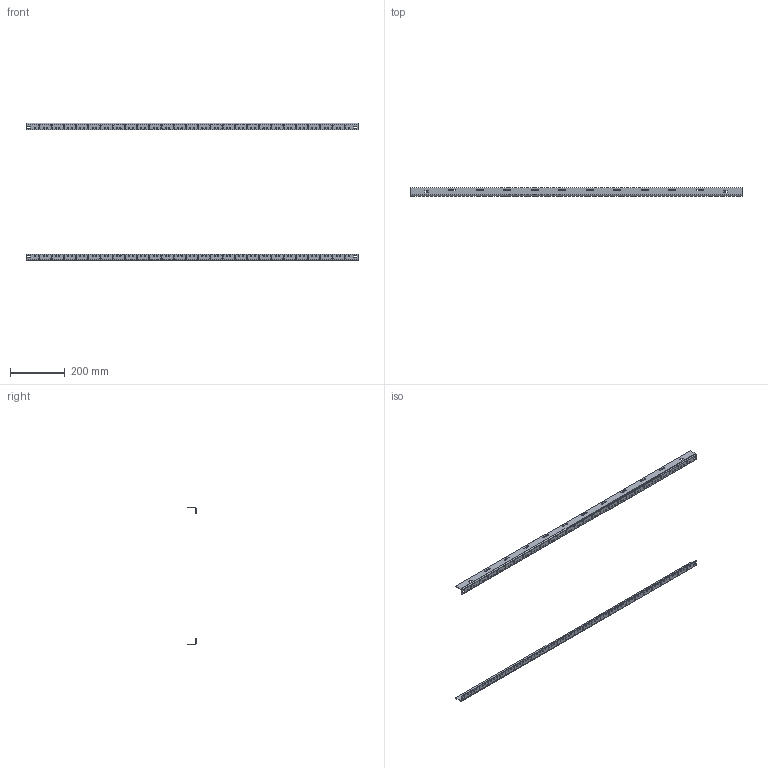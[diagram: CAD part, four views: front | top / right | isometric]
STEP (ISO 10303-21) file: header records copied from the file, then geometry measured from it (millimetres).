
FILE_DESCRIPTION (( 'STEP AP203' ), '1' );
FILE_NAME ('ewmr48t.STEP', '2020-08-12T20:18:04', ( '' ), ( '' ), 'SwSTEP 2.0', 'SolidWorks 2016', '' );
FILE_SCHEMA (( 'CONFIG_CONTROL_DESIGN' ));
Length unit declared in the file: inch
Products named in the file (2): 89072125_87931339; ewmr48t
Assembly tree (2 placements, depth 2):
  ewmr48t
    89072125_87931339  x2
Bounding box: 1208.34 x 30 x 500.14 mm (x, y, z)
Volume: 282677.7 mm3; surface area: 252046 mm2
Topology: 2 solids, 2 shells, 556 faces, 1640 edges, 1088 vertices
Faces by surface type: cylinder 460, plane 96
Entity records: 10224 total; most frequent: DIRECTION 1846, CARTESIAN_POINT 1647, ORIENTED_EDGE 1640, EDGE_CURVE 820, AXIS2_PLACEMENT_3D 743, VERTEX_POINT 544, EDGE_LOOP 514, CIRCLE 460
